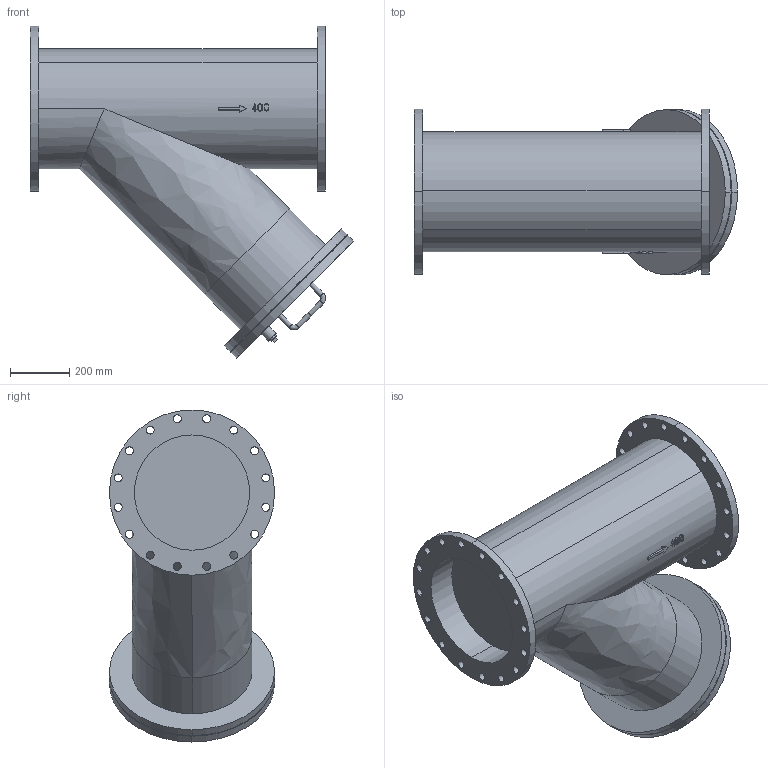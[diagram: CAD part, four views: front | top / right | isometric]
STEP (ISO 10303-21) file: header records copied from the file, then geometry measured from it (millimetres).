
FILE_DESCRIPTION( (''), '2;1');
FILE_NAME ('PC1056.8336.SY-13(400A)_25586.stp','2024-08-19T16:11:30',(''),(''),'spGate 19.8.4 (****-****-****-****)','','');
FILE_SCHEMA (('AUTOMOTIVE_DESIGN'));
Length unit declared in the file: millimetre
Products named in the file (14): Assembly; SY13(400A)本体P; 400Aカバー; PC1056-prt2; PC1056-prt3; PC1056-prt4; PC1056-prt5; PC1056-prt6; PC1056-prt7; PC1056-prt8; 400A取っ手_M8; 400A取っ手_M9; 400A取っ手_M10; プラグ　20A
Assembly tree (23 placements, depth 2):
  Assembly
    SY13(400A)本体P
    400Aカバー
    PC1056-prt2  x2
    PC1056-prt3  x2
    PC1056-prt4  x2
    PC1056-prt5  x2
    PC1056-prt6  x2
    PC1056-prt7  x2
    PC1056-prt8  x2
    400A取っ手_M8  x2
    400A取っ手_M9  x2
    400A取っ手_M10  x2
    プラグ　20A
Bounding box: 1095.21 x 560 x 1125.21 mm (x, y, z)
Volume: 205794093 mm3; surface area: 3947992.7 mm2
Topology: 9 solids, 9 shells, 257 faces, 606 edges, 400 vertices
Faces by surface type: cylinder 145, plane 72, bspline 40
Entity records: 13453 total; most frequent: CARTESIAN_POINT 3009, DIRECTION 1164, ORIENTED_EDGE 1124, COLOUR_RGB 814, PRESENTATION_STYLE_ASSIGNMENT 814, STYLED_ITEM 814, DRAUGHTING_PRE_DEFINED_CURVE_FONT 569, CURVE_STYLE 569
